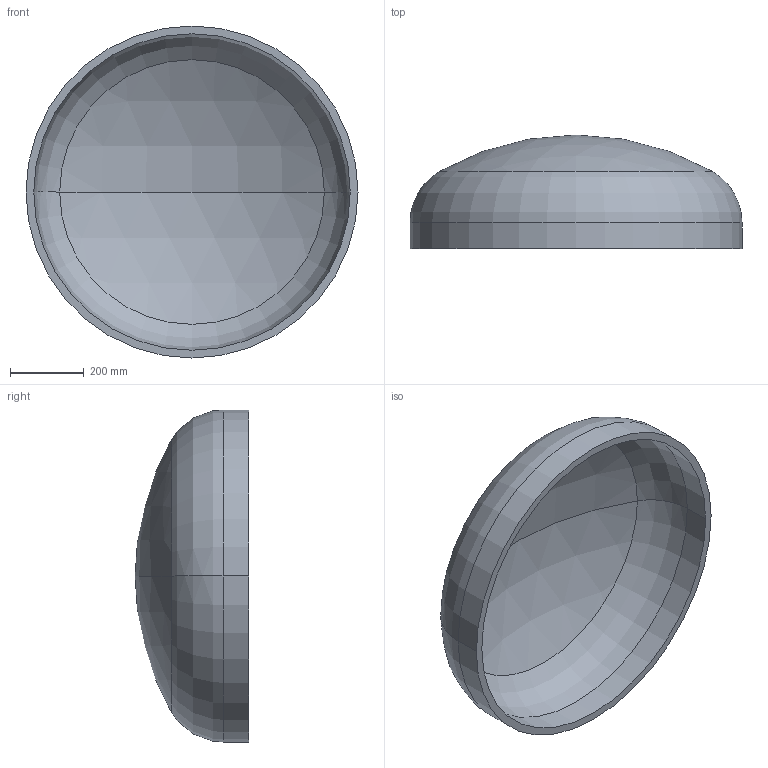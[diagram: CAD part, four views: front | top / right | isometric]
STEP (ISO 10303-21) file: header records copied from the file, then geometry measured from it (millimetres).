
FILE_DESCRIPTION (( 'STEP AP203' ), '1' );
FILE_NAME ('DIN 28013 Korbbogenform_-_Boden DIN 28013 - 900 x 70 - I - s=21.step', '2016-07-01T08:27:39', ( '' ), ( '' ), 'SwSTEP 2.0', 'SolidWorks 2013', '' );
FILE_SCHEMA (( 'CONFIG_CONTROL_DESIGN' ));
Length unit declared in the file: millimetre
Products named in the file (1): DIN 28013 Korbbogenform_-_Boden DIN 28013 - 900 x 70 - I - s=21
Bounding box: 900 x 308.13 x 900 mm (x, y, z)
Volume: 22039969.8 mm3; surface area: 2157958.4 mm2
Topology: 1 solids, 1 shells, 13 faces, 24 edges, 14 vertices
Faces by surface type: torus 4, cylinder 4, sphere 4, plane 1
Entity records: 407 total; most frequent: DIRECTION 72, CARTESIAN_POINT 52, ORIENTED_EDGE 48, AXIS2_PLACEMENT_3D 34, EDGE_CURVE 24, CIRCLE 20, EDGE_LOOP 14, VERTEX_POINT 14
